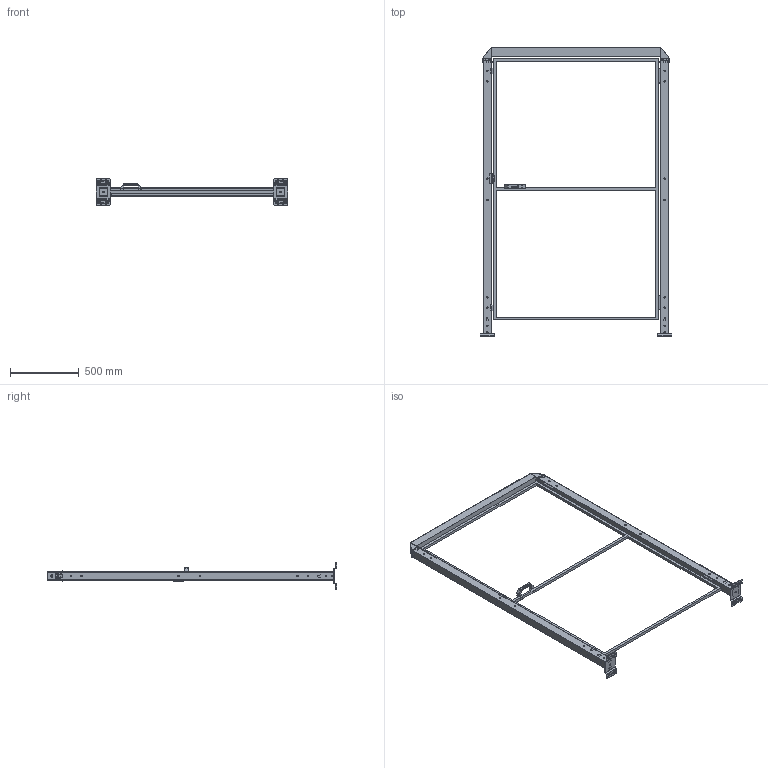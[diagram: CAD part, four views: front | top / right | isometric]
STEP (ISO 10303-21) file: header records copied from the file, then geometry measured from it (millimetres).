
FILE_DESCRIPTION(('STEP AP242'),'1');
FILE_NAME('vfda_bscndr2_12002020.stp','2025-01-23T12:21:20',('TraceParts'),('TraceParts S.A.'),'Spatial InterOp 3D',' ',' ');
FILE_SCHEMA(('AP242_MANAGED_MODEL_BASED_3D_ENGINEERING_MIM_LF {1 0 10303 442 1 1 4}'));
Length unit declared in the file: millimetre
Products named in the file (1): vfda_bscndr2_12002020_1
Bounding box: 1390 x 2101 x 192 mm (x, y, z)
Volume: 5189132.7 mm3; surface area: 3282036.2 mm2
Topology: 12 solids, 12 shells, 1874 faces, 5016 edges, 3212 vertices
Faces by surface type: plane 906, cylinder 628, bspline 236, cone 60, torus 40, sphere 4
Entity records: 75648 total; most frequent: CARTESIAN_POINT 13827, ORIENTED_EDGE 10024, DIRECTION 9202, EDGE_CURVE 5012, VERTEX_POINT 3212, LINE 3072, VECTOR 3072, AXIS2_PLACEMENT_3D 3065
